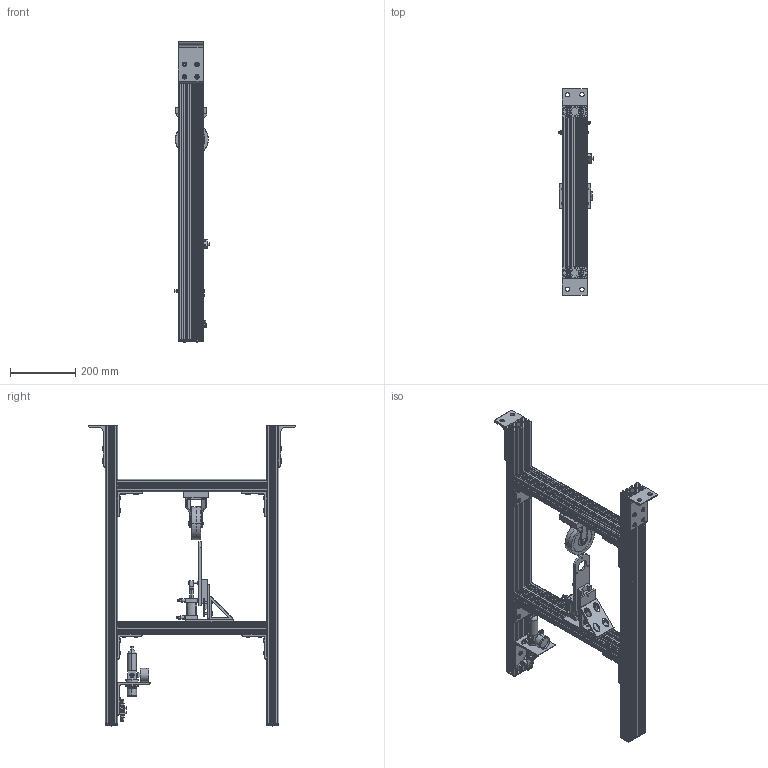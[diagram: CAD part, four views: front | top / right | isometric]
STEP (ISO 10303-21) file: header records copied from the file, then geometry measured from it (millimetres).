
FILE_DESCRIPTION (( 'STEP AP214' ), '1' );
FILE_NAME ('BRKT-2.STEP', '2019-11-19T20:03:10', ( '' ), ( '' ), 'SwSTEP 2.0', 'SolidWorks 2020', '' );
FILE_SCHEMA (( 'AUTOMOTIVE_DESIGN' ));
Length unit declared in the file: inch
Products named in the file (63): 10391; 10070; 10393; 10320; 10085-36_3feet; 10030; 10440; BRKT-2; 10150; 10085-18_3feet; 10360; 10050; 10340; 10323; 10395; 10470; 10390; 10025; 10350-01; 10300; 10035; BALLSLIDE2; 10431; 10330; 10015; 10065; 10450; 10420; Caster, 4in 101225 (8020 2335); 10310; 10040; 10430; 10020; 10396; 10060; 10380; 10010; BALLSLIDE1; 10250; 10400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
Assembly tree (158 placements, depth 4):
  BRKT-2
    10085-36_3feet  x2
    10085-18_3feet  x2
    10040  x4
    10045  x2
    10010  x2
    10050
    10400
      10470
      10450  x4
      10420
      10430
      10431  x2
      10440
    10300
      10310
      10320
      10330
      10360
      10380  x2
      10350-01
      10370
      10340
        BALLSLIDE1
        BALLSLIDE2
      10395
      10396
      10391  x4
      10322  x2
      10393  x2
      10323  x4
      10390  x2
    10150
      10030  x2
      10025
    10150
      10030  x2
      10025
    10150
      10030  x2
      10025
    10150
      10030  x2
      10025
    10150
      10030  x2
      10025
    10150
      10030  x2
      10025
    10150
      10030  x2
      10025
    10150
      10030  x2
      10025
    10150
      10030  x2
      10025
    10150
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Bounding box: 106.68 x 634.25 x 922.34 mm (x, y, z)
Volume: 5269481.9 mm3; surface area: 2204436.8 mm2
Topology: 133 solids, 133 shells, 3860 faces, 9437 edges, 6048 vertices
Faces by surface type: plane 1699, cylinder 1597, torus 464, cone 60, bspline 28, sphere 12
Entity records: 52608 total; most frequent: CARTESIAN_POINT 9562, DIRECTION 8522, ORIENTED_EDGE 7754, EDGE_CURVE 3877, AXIS2_PLACEMENT_3D 3212, VERTEX_POINT 2498, LINE 2098, VECTOR 2098
